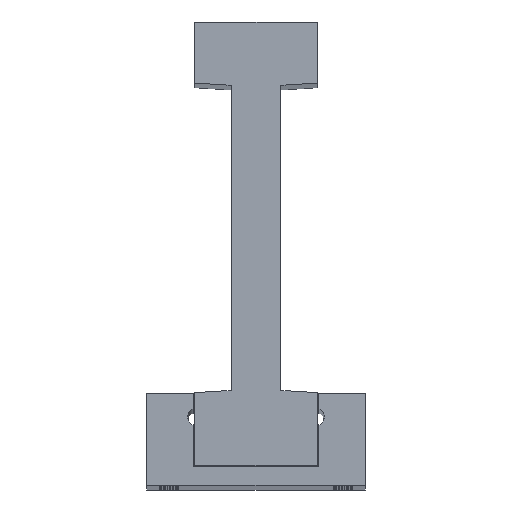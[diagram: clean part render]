
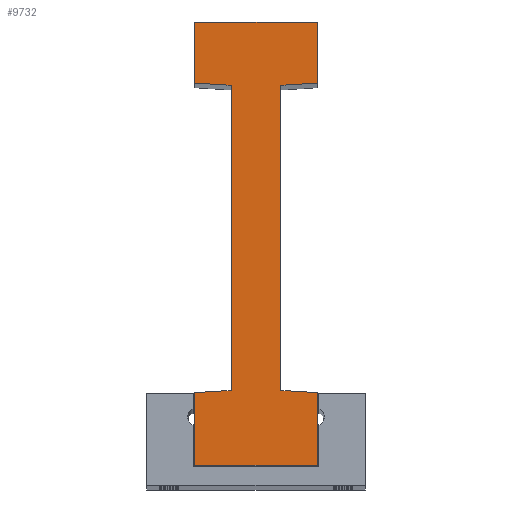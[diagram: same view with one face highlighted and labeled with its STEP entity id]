
A CAD part, top view. The second image highlights one B-rep face of the part: STEP entity #9732.
In plain terms, the highlighted planar face has unit normal (0, 0, 1).
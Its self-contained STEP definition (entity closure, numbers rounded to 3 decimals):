
#240 = CARTESIAN_POINT ( 'NONE',  ( 13.8, 0., 601. ) ) ;
#970 = VECTOR ( 'NONE', #12318, 1000. ) ;
#1088 = EDGE_CURVE ( 'NONE', #2122, #19406, #27351, .T. ) ;
#1230 = LINE ( 'NONE', #12407, #970 ) ;
#1425 = ORIENTED_EDGE ( 'NONE', *, *, #30355, .T. ) ;
#1781 = ORIENTED_EDGE ( 'NONE', *, *, #8565, .T. ) ;
#2021 = AXIS2_PLACEMENT_3D ( 'NONE', #8825, #8693, #8667 ) ;
#2122 = VERTEX_POINT ( 'NONE', #14452 ) ;
#3933 = DIRECTION ( 'NONE',  ( 0.998, 0.061, 0. ) ) ;
#5395 = CARTESIAN_POINT ( 'NONE',  ( -13.8, 13.7, 601. ) ) ;
#5396 = EDGE_CURVE ( 'NONE', #36947, #28776, #10116, .T. ) ;
#6728 = VERTEX_POINT ( 'NONE', #32413 ) ;
#7675 = EDGE_CURVE ( 'NONE', #25999, #36947, #35778, .T. ) ;
#7943 = VERTEX_POINT ( 'NONE', #23013 ) ;
#7993 = VERTEX_POINT ( 'NONE', #19275 ) ;
#8565 = EDGE_CURVE ( 'NONE', #28776, #2122, #26063, .T. ) ;
#8667 = DIRECTION ( 'NONE',  ( -1., 0., 0. ) ) ;
#8693 = DIRECTION ( 'NONE',  ( 0., 0., -1. ) ) ;
#8727 = CARTESIAN_POINT ( 'NONE',  ( 5.6, 82.7, 601. ) ) ;
#8802 = VECTOR ( 'NONE', #32529, 1000. ) ;
#8825 = CARTESIAN_POINT ( 'NONE',  ( 0., 99.5, 601. ) ) ;
#9217 = PLANE ( 'NONE',  #2021 ) ;
#9246 = LINE ( 'NONE', #20233, #8802 ) ;
#9732 = ADVANCED_FACE ( 'NONE', ( #16460 ), #9217, .F. ) ;
#9866 = VECTOR ( 'NONE', #17534, 1000. ) ;
#9995 = ORIENTED_EDGE ( 'NONE', *, *, #12261, .T. ) ;
#10116 = LINE ( 'NONE', #17258, #9866 ) ;
#10210 = VECTOR ( 'NONE', #28481, 1000. ) ;
#10593 = DIRECTION ( 'NONE',  ( 0.998, 0.061, 0. ) ) ;
#10727 = EDGE_CURVE ( 'NONE', #21626, #27040, #10737, .T. ) ;
#10737 = LINE ( 'NONE', #29013, #10210 ) ;
#12261 = EDGE_CURVE ( 'NONE', #7993, #25999, #1230, .T. ) ;
#12318 = DIRECTION ( 'NONE',  ( 1., 0., 0. ) ) ;
#12407 = CARTESIAN_POINT ( 'NONE',  ( 0., 0., 601. ) ) ;
#13286 = EDGE_CURVE ( 'NONE', #27040, #31643, #34102, .T. ) ;
#14213 = ORIENTED_EDGE ( 'NONE', *, *, #38809, .T. ) ;
#14282 = EDGE_CURVE ( 'NONE', #6728, #7943, #31088, .T. ) ;
#14452 = CARTESIAN_POINT ( 'NONE',  ( 5.6, 82.7, 601. ) ) ;
#15756 = ORIENTED_EDGE ( 'NONE', *, *, #13286, .F. ) ;
#15769 = ORIENTED_EDGE ( 'NONE', *, *, #10727, .F. ) ;
#16460 = FACE_OUTER_BOUND ( 'NONE', #38723, .T. ) ;
#16701 = ORIENTED_EDGE ( 'NONE', *, *, #7675, .T. ) ;
#17258 = CARTESIAN_POINT ( 'NONE',  ( 13.8, 13.7, 601. ) ) ;
#17534 = DIRECTION ( 'NONE',  ( -0.998, 0.061, 0. ) ) ;
#19275 = CARTESIAN_POINT ( 'NONE',  ( -13.8, 0., 601. ) ) ;
#19406 = VERTEX_POINT ( 'NONE', #20942 ) ;
#20233 = CARTESIAN_POINT ( 'NONE',  ( -5.6, 14.2, 601. ) ) ;
#20514 = CARTESIAN_POINT ( 'NONE',  ( -13.8, 0., 601. ) ) ;
#20942 = CARTESIAN_POINT ( 'NONE',  ( 13.8, 83.2, 601. ) ) ;
#21626 = VERTEX_POINT ( 'NONE', #24304 ) ;
#22568 = CARTESIAN_POINT ( 'NONE',  ( -13.8, 99.5, 601. ) ) ;
#22811 = CARTESIAN_POINT ( 'NONE',  ( -13.8, 99.5, 601. ) ) ;
#22823 = DIRECTION ( 'NONE',  ( 0., 1., 0. ) ) ;
#23013 = CARTESIAN_POINT ( 'NONE',  ( -5.6, 14.2, 601. ) ) ;
#23214 = VECTOR ( 'NONE', #26337, 1000. ) ;
#23235 = CARTESIAN_POINT ( 'NONE',  ( 0., 99.5, 601. ) ) ;
#23652 = DIRECTION ( 'NONE',  ( 0., 1., 0. ) ) ;
#23986 = LINE ( 'NONE', #20514, #39012 ) ;
#24304 = CARTESIAN_POINT ( 'NONE',  ( -5.6, 82.7, 601. ) ) ;
#25096 = ORIENTED_EDGE ( 'NONE', *, *, #5396, .T. ) ;
#25999 = VERTEX_POINT ( 'NONE', #240 ) ;
#26063 = LINE ( 'NONE', #37707, #27018 ) ;
#26337 = DIRECTION ( 'NONE',  ( -1., 0., 0. ) ) ;
#27018 = VECTOR ( 'NONE', #35362, 1000. ) ;
#27040 = VERTEX_POINT ( 'NONE', #37031 ) ;
#27212 = VECTOR ( 'NONE', #10593, 1000. ) ;
#27345 = CARTESIAN_POINT ( 'NONE',  ( 13.8, 13.7, 601. ) ) ;
#27351 = LINE ( 'NONE', #8727, #27212 ) ;
#28481 = DIRECTION ( 'NONE',  ( -0.998, 0.061, 0. ) ) ;
#28776 = VERTEX_POINT ( 'NONE', #31984 ) ;
#28920 = ORIENTED_EDGE ( 'NONE', *, *, #32524, .F. ) ;
#29013 = CARTESIAN_POINT ( 'NONE',  ( -5.6, 82.7, 601. ) ) ;
#30355 = EDGE_CURVE ( 'NONE', #19406, #32210, #33910, .T. ) ;
#30568 = LINE ( 'NONE', #23235, #23214 ) ;
#30880 = CARTESIAN_POINT ( 'NONE',  ( 13.8, 99.5, 601. ) ) ;
#31053 = VECTOR ( 'NONE', #3933, 1000. ) ;
#31088 = LINE ( 'NONE', #5395, #31053 ) ;
#31643 = VERTEX_POINT ( 'NONE', #22811 ) ;
#31984 = CARTESIAN_POINT ( 'NONE',  ( 5.6, 14.2, 601. ) ) ;
#32210 = VERTEX_POINT ( 'NONE', #30880 ) ;
#32413 = CARTESIAN_POINT ( 'NONE',  ( -13.8, 13.7, 601. ) ) ;
#32524 = EDGE_CURVE ( 'NONE', #7943, #21626, #9246, .T. ) ;
#32529 = DIRECTION ( 'NONE',  ( 0., 1., 0. ) ) ;
#33541 = VECTOR ( 'NONE', #23652, 1000. ) ;
#33910 = LINE ( 'NONE', #38641, #33541 ) ;
#33934 = VECTOR ( 'NONE', #22823, 1000. ) ;
#34102 = LINE ( 'NONE', #22568, #33934 ) ;
#35318 = VECTOR ( 'NONE', #37679, 1000. ) ;
#35362 = DIRECTION ( 'NONE',  ( 0., 1., 0. ) ) ;
#35363 = DIRECTION ( 'NONE',  ( 0., 1., 0. ) ) ;
#35778 = LINE ( 'NONE', #38175, #35318 ) ;
#36947 = VERTEX_POINT ( 'NONE', #27345 ) ;
#37031 = CARTESIAN_POINT ( 'NONE',  ( -13.8, 83.2, 601. ) ) ;
#37221 = ORIENTED_EDGE ( 'NONE', *, *, #1088, .T. ) ;
#37289 = ORIENTED_EDGE ( 'NONE', *, *, #37506, .F. ) ;
#37506 = EDGE_CURVE ( 'NONE', #7993, #6728, #23986, .T. ) ;
#37679 = DIRECTION ( 'NONE',  ( 0., 1., 0. ) ) ;
#37707 = CARTESIAN_POINT ( 'NONE',  ( 5.6, 14.2, 601. ) ) ;
#37903 = ORIENTED_EDGE ( 'NONE', *, *, #14282, .F. ) ;
#38175 = CARTESIAN_POINT ( 'NONE',  ( 13.8, 0., 601. ) ) ;
#38641 = CARTESIAN_POINT ( 'NONE',  ( 13.8, 99.5, 601. ) ) ;
#38723 = EDGE_LOOP ( 'NONE', ( #14213, #15756, #15769, #28920, #37903, #37289, #9995, #16701, #25096, #1781, #37221, #1425 ) ) ;
#38809 = EDGE_CURVE ( 'NONE', #32210, #31643, #30568, .T. ) ;
#39012 = VECTOR ( 'NONE', #35363, 1000. ) ;
